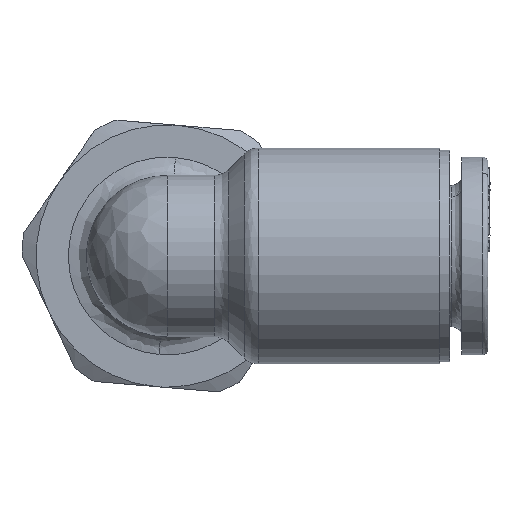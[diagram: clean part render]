
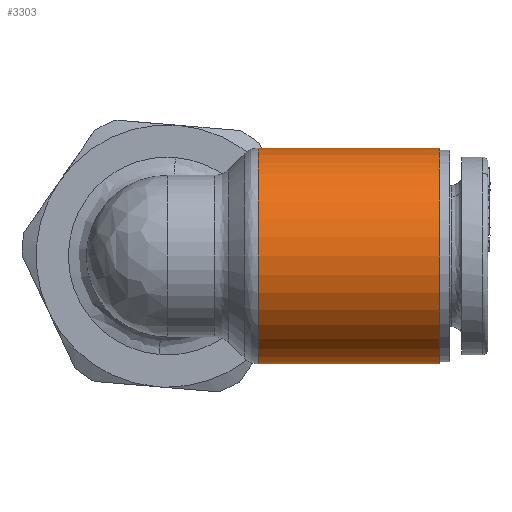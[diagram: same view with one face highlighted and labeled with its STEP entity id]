
A CAD part, left-side view. The second image highlights one B-rep face of the part: STEP entity #3303.
In plain terms, the highlighted cylindrical face has radius 5.35 mm (diameter 10.7 mm), a partial arc.
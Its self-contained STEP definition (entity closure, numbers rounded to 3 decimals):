
#343 = LINE ( 'NONE', #5053, #11929 ) ;
#768 = CARTESIAN_POINT ( 'NONE',  ( 0., 0., 5.35 ) ) ;
#844 = CARTESIAN_POINT ( 'NONE',  ( 0., 8.986, -5.35 ) ) ;
#858 = VERTEX_POINT ( 'NONE', #844 ) ;
#1089 = DIRECTION ( 'NONE',  ( 0., -1., 0. ) ) ;
#2251 = EDGE_CURVE ( 'NONE', #13723, #7564, #343, .T. ) ;
#3303 = ADVANCED_FACE ( 'NONE', ( #5969 ), #13357, .T. ) ;
#3460 = CARTESIAN_POINT ( 'NONE',  ( 0., 0., -5.35 ) ) ;
#3798 = DIRECTION ( 'NONE',  ( 0., 0., -1. ) ) ;
#3816 = DIRECTION ( 'NONE',  ( 0., -1., 0. ) ) ;
#3829 = CARTESIAN_POINT ( 'NONE',  ( 0., 0., 0. ) ) ;
#4017 = EDGE_CURVE ( 'NONE', #7564, #4074, #10107, .T. ) ;
#4074 = VERTEX_POINT ( 'NONE', #3460 ) ;
#4443 = CARTESIAN_POINT ( 'NONE',  ( 0., 8.986, -5.35 ) ) ;
#4501 = ORIENTED_EDGE ( 'NONE', *, *, #2251, .F. ) ;
#4631 = CARTESIAN_POINT ( 'NONE',  ( 0., 8.986, 5.35 ) ) ;
#4969 = DIRECTION ( 'NONE',  ( 0., -1., 0. ) ) ;
#5053 = CARTESIAN_POINT ( 'NONE',  ( 0., 8.986, 5.35 ) ) ;
#5670 = AXIS2_PLACEMENT_3D ( 'NONE', #11656, #11609, #11479 ) ;
#5698 = EDGE_CURVE ( 'NONE', #858, #4074, #10691, .T. ) ;
#5969 = FACE_OUTER_BOUND ( 'NONE', #8515, .T. ) ;
#6326 = ORIENTED_EDGE ( 'NONE', *, *, #4017, .F. ) ;
#7317 = CIRCLE ( 'NONE', #7491, 5.35 ) ;
#7491 = AXIS2_PLACEMENT_3D ( 'NONE', #11278, #11262, #11247 ) ;
#7564 = VERTEX_POINT ( 'NONE', #768 ) ;
#8325 = ORIENTED_EDGE ( 'NONE', *, *, #8980, .F. ) ;
#8515 = EDGE_LOOP ( 'NONE', ( #4501, #8325, #9061, #6326 ) ) ;
#8980 = EDGE_CURVE ( 'NONE', #858, #13723, #7317, .T. ) ;
#9061 = ORIENTED_EDGE ( 'NONE', *, *, #5698, .T. ) ;
#9752 = AXIS2_PLACEMENT_3D ( 'NONE', #3829, #3816, #3798 ) ;
#10107 = CIRCLE ( 'NONE', #9752, 5.35 ) ;
#10691 = LINE ( 'NONE', #4443, #13376 ) ;
#11247 = DIRECTION ( 'NONE',  ( 0., 0., -1. ) ) ;
#11262 = DIRECTION ( 'NONE',  ( 0., 1., 0. ) ) ;
#11278 = CARTESIAN_POINT ( 'NONE',  ( 0., 8.986, 0. ) ) ;
#11479 = DIRECTION ( 'NONE',  ( 0., 0., -1. ) ) ;
#11609 = DIRECTION ( 'NONE',  ( 0., -1., 0. ) ) ;
#11656 = CARTESIAN_POINT ( 'NONE',  ( 0., 8.986, 0. ) ) ;
#11929 = VECTOR ( 'NONE', #4969, 1000. ) ;
#13357 = CYLINDRICAL_SURFACE ( 'NONE', #5670, 5.35 ) ;
#13376 = VECTOR ( 'NONE', #1089, 1000. ) ;
#13723 = VERTEX_POINT ( 'NONE', #4631 ) ;
